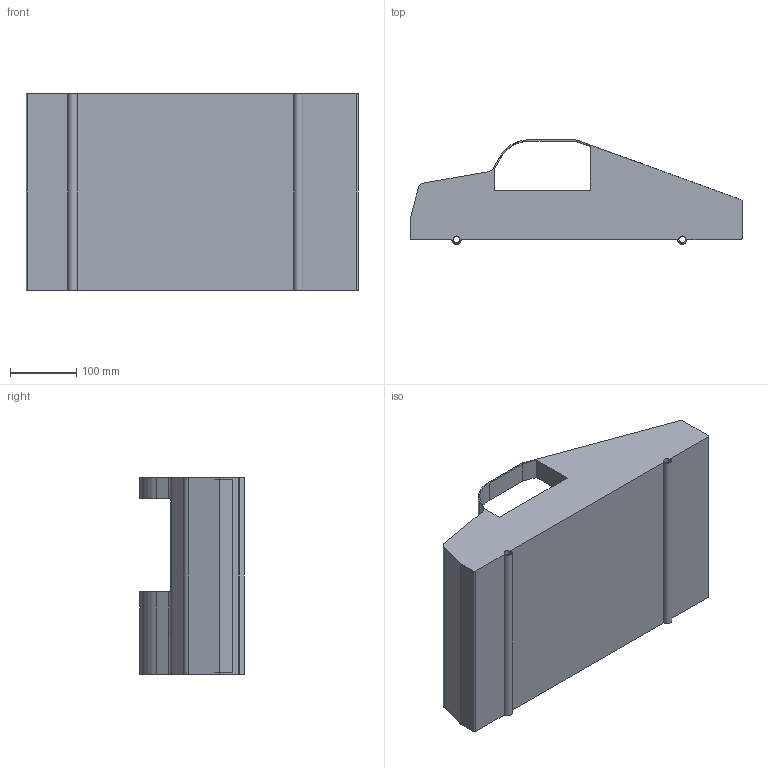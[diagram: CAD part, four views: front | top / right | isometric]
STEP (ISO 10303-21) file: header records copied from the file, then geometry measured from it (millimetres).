
FILE_DESCRIPTION (( 'STEP AP203' ), '1' );
FILE_NAME ('Body 1.STEP', '2021-06-04T13:44:59', ( '' ), ( '' ), 'SwSTEP 2.0', 'SolidWorks 2016', '' );
FILE_SCHEMA (( 'CONFIG_CONTROL_DESIGN' ));
Length unit declared in the file: centimetre
Products named in the file (1): Body 1
Bounding box: 500 x 157 x 296 mm (x, y, z)
Volume: 784008.5 mm3; surface area: 741999.5 mm2
Topology: 1 solids, 1 shells, 65 faces, 195 edges, 130 vertices
Faces by surface type: plane 46, cylinder 19
Entity records: 2282 total; most frequent: CARTESIAN_POINT 391, ORIENTED_EDGE 390, DIRECTION 367, EDGE_CURVE 195, LINE 155, VECTOR 155, VERTEX_POINT 130, AXIS2_PLACEMENT_3D 106
